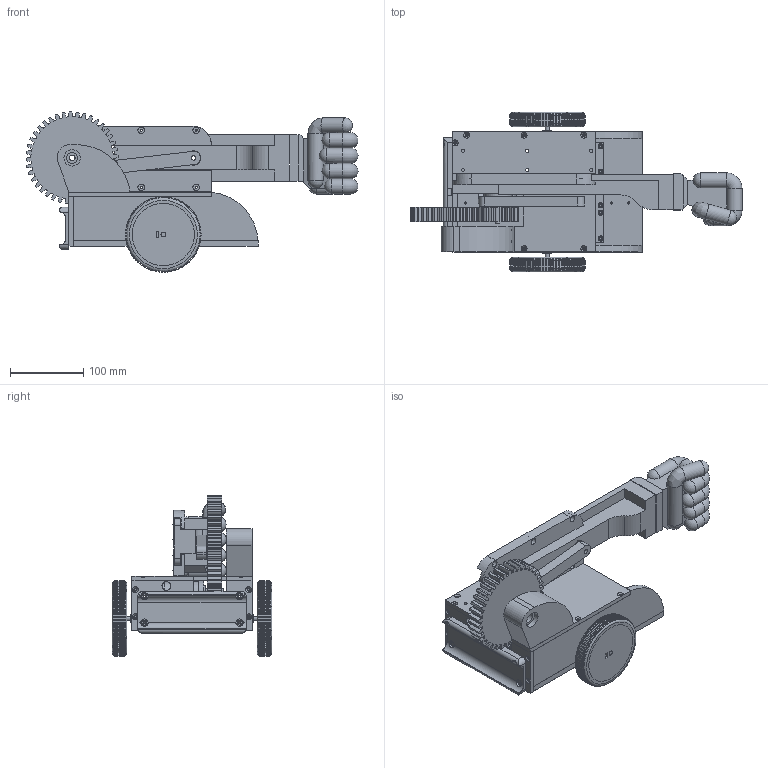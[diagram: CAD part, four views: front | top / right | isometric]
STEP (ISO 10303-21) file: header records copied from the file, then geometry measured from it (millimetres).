
FILE_DESCRIPTION(/* description */ (''),/* implementation_level */ '2;1');
FILE_NAME(/* name */ '73cd919a-d256-4afe-a30f-0c525bbbeff1.stp',/* time_stamp */ '2022-12-14T21:40:30Z',/* author */ (''),/* organization */ (''),/* preprocessor_version */ 'ST-DEVELOPER v19.2',/* originating_system */ 'Autodesk Translation Framework v11.17.0.187',/* authorisation */ '');
FILE_SCHEMA (('AUTOMOTIVE_DESIGN { 1 0 10303 214 3 1 1 }'));
Products named in the file (5): SecretSanta; bigGear; pushrod; slider; Battery v1
Assembly tree (4 placements, depth 2):
  SecretSanta
    bigGear
    pushrod
    slider
    Battery v1
Bounding box: 453.6 x 218 x 219.1 mm (x, y, z)
Volume: 2688254.4 mm3; surface area: 621603 mm2
Topology: 25 solids, 25 shells, 1777 faces, 4832 edges, 3172 vertices
Faces by surface type: plane 990, cylinder 568, bspline 116, cone 69, torus 24, sphere 10
Full cylindrical faces by diameter (mm): 2.8 x80, 3.5 x36, 3.8 x12, 4 x30, 4.5 x4, 4.6 x3, 6 x8, 6.5 x2, 7 x12, 8 x1, 9 x6, 10 x4, 12 x4, 13 x4, 14 x1, 14.2 x2, 15 x1, 20 x3, 21 x2, 22.3 x2, 36 x3, 38 x6, 40 x2, 77 x4, 85 x8
Entity records: 133010 total; most frequent: CARTESIAN_POINT 89265, ORIENTED_EDGE 9654, DIRECTION 8167, EDGE_CURVE 4827, VERTEX_POINT 3172, AXIS2_PLACEMENT_3D 2942, LINE 2283, VECTOR 2283
